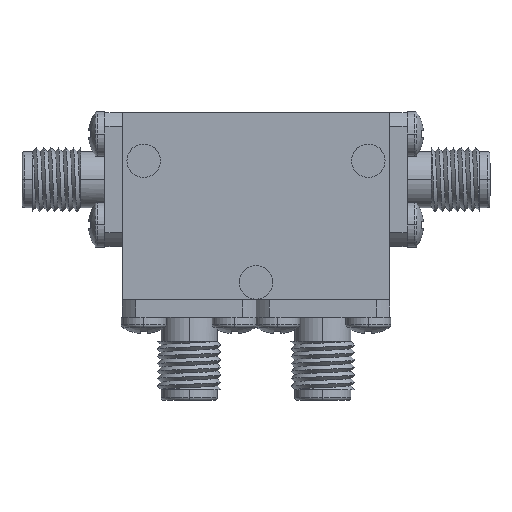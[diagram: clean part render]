
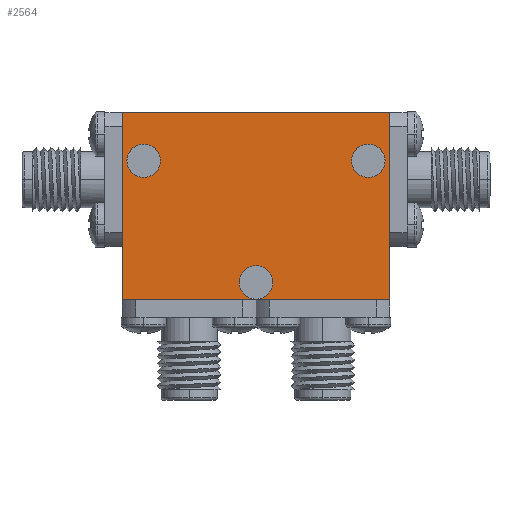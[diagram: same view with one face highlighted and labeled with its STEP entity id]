
A CAD part, top view. The second image highlights one B-rep face of the part: STEP entity #2564.
In plain terms, the highlighted planar face has unit normal (0, 0, 1).
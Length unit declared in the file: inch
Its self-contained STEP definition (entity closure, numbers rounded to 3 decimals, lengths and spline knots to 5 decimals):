
#130 = CARTESIAN_POINT ( 'NONE',  ( -0.3575, 0.17, 0.25 ) ) ;
#219 = DIRECTION ( 'NONE',  ( 0., 0., 1. ) ) ;
#223 = DIRECTION ( 'NONE',  ( 0., 0., 1. ) ) ;
#232 = EDGE_CURVE ( 'NONE', #3513, #1588, #3284, .T. ) ;
#266 = CARTESIAN_POINT ( 'NONE',  ( 0.5, 0.35, 0.25 ) ) ;
#303 = CIRCLE ( 'NONE', #524, 0.0625 ) ;
#458 = DIRECTION ( 'NONE',  ( 1., 0., 0. ) ) ;
#516 = CARTESIAN_POINT ( 'NONE',  ( 0.42, 0.17, 0.25 ) ) ;
#524 = AXIS2_PLACEMENT_3D ( 'NONE', #2894, #2007, #799 ) ;
#537 = ORIENTED_EDGE ( 'NONE', *, *, #3225, .T. ) ;
#548 = VERTEX_POINT ( 'NONE', #3533 ) ;
#614 = CARTESIAN_POINT ( 'NONE',  ( -0.5, 0.35, 0.25 ) ) ;
#694 = CARTESIAN_POINT ( 'NONE',  ( 0.5, 0.35, 0.25 ) ) ;
#732 = ORIENTED_EDGE ( 'NONE', *, *, #2271, .F. ) ;
#737 = VECTOR ( 'NONE', #3008, 39.37008 ) ;
#749 = AXIS2_PLACEMENT_3D ( 'NONE', #3458, #752, #458 ) ;
#752 = DIRECTION ( 'NONE',  ( 0., 0., 1. ) ) ;
#794 = CARTESIAN_POINT ( 'NONE',  ( 0., -0.285, 0.25 ) ) ;
#799 = DIRECTION ( 'NONE',  ( 1., 0., 0. ) ) ;
#814 = CIRCLE ( 'NONE', #3123, 0.0625 ) ;
#824 = VERTEX_POINT ( 'NONE', #1818 ) ;
#840 = EDGE_CURVE ( 'NONE', #1588, #824, #2449, .T. ) ;
#848 = ORIENTED_EDGE ( 'NONE', *, *, #2803, .F. ) ;
#867 = PLANE ( 'NONE',  #2212 ) ;
#1008 = CARTESIAN_POINT ( 'NONE',  ( -0.4825, 0.17, 0.25 ) ) ;
#1020 = CIRCLE ( 'NONE', #749, 0.0625 ) ;
#1044 = EDGE_CURVE ( 'NONE', #548, #1064, #3296, .T. ) ;
#1064 = VERTEX_POINT ( 'NONE', #1741 ) ;
#1084 = DIRECTION ( 'NONE',  ( 1., 0., 0. ) ) ;
#1128 = DIRECTION ( 'NONE',  ( 0., 0., 1. ) ) ;
#1193 = FACE_OUTER_BOUND ( 'NONE', #1684, .T. ) ;
#1228 = ORIENTED_EDGE ( 'NONE', *, *, #1460, .T. ) ;
#1306 = AXIS2_PLACEMENT_3D ( 'NONE', #794, #3220, #1403 ) ;
#1365 = ORIENTED_EDGE ( 'NONE', *, *, #2407, .F. ) ;
#1403 = DIRECTION ( 'NONE',  ( 1., 0., 0. ) ) ;
#1434 = CARTESIAN_POINT ( 'NONE',  ( -0.5, 0.35, 0.25 ) ) ;
#1460 = EDGE_CURVE ( 'NONE', #824, #2374, #2289, .T. ) ;
#1475 = AXIS2_PLACEMENT_3D ( 'NONE', #516, #2282, #3813 ) ;
#1514 = LINE ( 'NONE', #694, #3755 ) ;
#1588 = VERTEX_POINT ( 'NONE', #1434 ) ;
#1627 = FACE_BOUND ( 'NONE', #1701, .T. ) ;
#1644 = EDGE_CURVE ( 'NONE', #2364, #2639, #1662, .T. ) ;
#1662 = CIRCLE ( 'NONE', #1306, 0.0625 ) ;
#1682 = ORIENTED_EDGE ( 'NONE', *, *, #1644, .F. ) ;
#1684 = EDGE_LOOP ( 'NONE', ( #537, #3218, #2390, #1228 ) ) ;
#1701 = EDGE_LOOP ( 'NONE', ( #1365, #3692 ) ) ;
#1708 = DIRECTION ( 'NONE',  ( 1., 0., 0. ) ) ;
#1709 = DIRECTION ( 'NONE',  ( 1., 0., 0. ) ) ;
#1741 = CARTESIAN_POINT ( 'NONE',  ( 0.4825, 0.17, 0.25 ) ) ;
#1818 = CARTESIAN_POINT ( 'NONE',  ( -0.5, -0.35, 0.25 ) ) ;
#1975 = CARTESIAN_POINT ( 'NONE',  ( -0.0625, -0.285, 0.25 ) ) ;
#2007 = DIRECTION ( 'NONE',  ( 0., 0., 1. ) ) ;
#2206 = DIRECTION ( 'NONE',  ( 0., 1., 0. ) ) ;
#2212 = AXIS2_PLACEMENT_3D ( 'NONE', #3550, #219, #2956 ) ;
#2215 = CIRCLE ( 'NONE', #1475, 0.0625 ) ;
#2271 = EDGE_CURVE ( 'NONE', #3279, #3209, #1020, .T. ) ;
#2282 = DIRECTION ( 'NONE',  ( 0., 0., 1. ) ) ;
#2289 = LINE ( 'NONE', #3148, #2770 ) ;
#2364 = VERTEX_POINT ( 'NONE', #1975 ) ;
#2374 = VERTEX_POINT ( 'NONE', #3440 ) ;
#2390 = ORIENTED_EDGE ( 'NONE', *, *, #840, .T. ) ;
#2403 = DIRECTION ( 'NONE',  ( -1., 0., 0. ) ) ;
#2407 = EDGE_CURVE ( 'NONE', #1064, #548, #2215, .T. ) ;
#2449 = LINE ( 'NONE', #614, #737 ) ;
#2483 = AXIS2_PLACEMENT_3D ( 'NONE', #2641, #1128, #1708 ) ;
#2564 = ADVANCED_FACE ( 'NONE', ( #1627, #3015, #3482, #1193 ), #867, .T. ) ;
#2639 = VERTEX_POINT ( 'NONE', #2825 ) ;
#2641 = CARTESIAN_POINT ( 'NONE',  ( 0.42, 0.17, 0.25 ) ) ;
#2770 = VECTOR ( 'NONE', #1084, 39.37008 ) ;
#2803 = EDGE_CURVE ( 'NONE', #2639, #2364, #303, .T. ) ;
#2812 = VECTOR ( 'NONE', #2403, 39.37008 ) ;
#2825 = CARTESIAN_POINT ( 'NONE',  ( 0.0625, -0.285, 0.25 ) ) ;
#2831 = ORIENTED_EDGE ( 'NONE', *, *, #3414, .F. ) ;
#2894 = CARTESIAN_POINT ( 'NONE',  ( 0., -0.285, 0.25 ) ) ;
#2956 = DIRECTION ( 'NONE',  ( 1., 0., 0. ) ) ;
#3008 = DIRECTION ( 'NONE',  ( 0., -1., 0. ) ) ;
#3015 = FACE_BOUND ( 'NONE', #3763, .T. ) ;
#3123 = AXIS2_PLACEMENT_3D ( 'NONE', #3776, #223, #1709 ) ;
#3148 = CARTESIAN_POINT ( 'NONE',  ( -0.5, -0.35, 0.25 ) ) ;
#3209 = VERTEX_POINT ( 'NONE', #130 ) ;
#3218 = ORIENTED_EDGE ( 'NONE', *, *, #232, .T. ) ;
#3220 = DIRECTION ( 'NONE',  ( 0., 0., 1. ) ) ;
#3225 = EDGE_CURVE ( 'NONE', #2374, #3513, #1514, .T. ) ;
#3264 = EDGE_LOOP ( 'NONE', ( #2831, #732 ) ) ;
#3279 = VERTEX_POINT ( 'NONE', #1008 ) ;
#3284 = LINE ( 'NONE', #3595, #2812 ) ;
#3296 = CIRCLE ( 'NONE', #2483, 0.0625 ) ;
#3414 = EDGE_CURVE ( 'NONE', #3209, #3279, #814, .T. ) ;
#3440 = CARTESIAN_POINT ( 'NONE',  ( 0.5, -0.35, 0.25 ) ) ;
#3458 = CARTESIAN_POINT ( 'NONE',  ( -0.42, 0.17, 0.25 ) ) ;
#3482 = FACE_BOUND ( 'NONE', #3264, .T. ) ;
#3513 = VERTEX_POINT ( 'NONE', #266 ) ;
#3533 = CARTESIAN_POINT ( 'NONE',  ( 0.3575, 0.17, 0.25 ) ) ;
#3550 = CARTESIAN_POINT ( 'NONE',  ( 0., 0., 0.25 ) ) ;
#3595 = CARTESIAN_POINT ( 'NONE',  ( -0.5, 0.35, 0.25 ) ) ;
#3692 = ORIENTED_EDGE ( 'NONE', *, *, #1044, .F. ) ;
#3755 = VECTOR ( 'NONE', #2206, 39.37008 ) ;
#3763 = EDGE_LOOP ( 'NONE', ( #848, #1682 ) ) ;
#3776 = CARTESIAN_POINT ( 'NONE',  ( -0.42, 0.17, 0.25 ) ) ;
#3813 = DIRECTION ( 'NONE',  ( 1., 0., 0. ) ) ;
